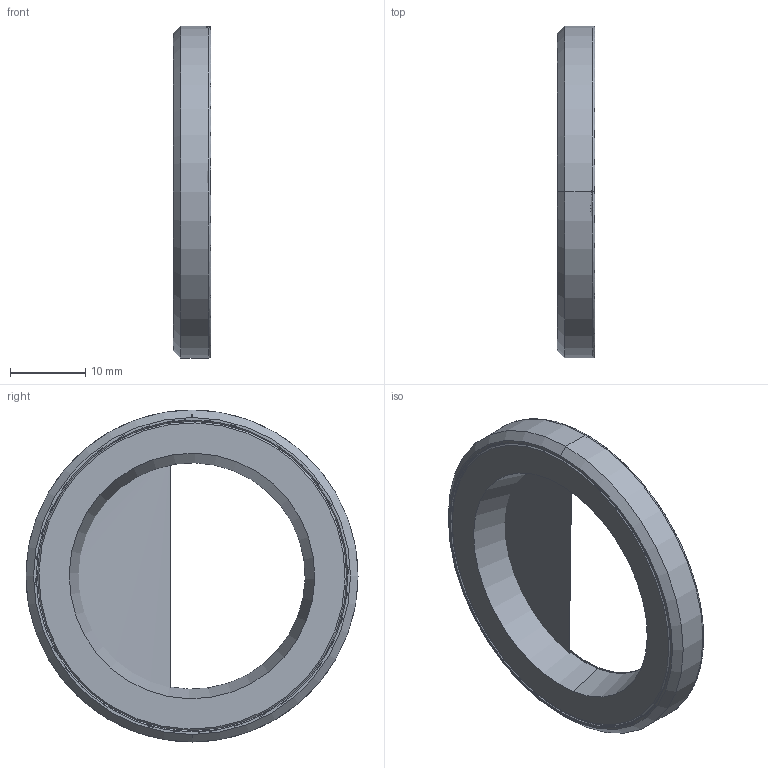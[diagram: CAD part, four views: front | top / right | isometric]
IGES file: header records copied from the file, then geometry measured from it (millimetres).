
Start section: 3D InterOp IGES (Version 21 0 1), Spatial Corp. Copyright (c) 1999-2007.
Global section: file name: DBX-30.igs; native system: Spatial Corp.; preprocessor: 3D InterOp GENERIC/IGES 3.0; author: Noname; organization: Noname; date: 20220216.143351; units: millimetre
Bounding box: 5 x 44 x 44 mm (x, y, z)
Surface area: 6546 mm2 (no closed solid volume)
Topology: 0 solids, 0 shells, 43 faces, 188 edges, 180 vertices
Faces by surface type: revolution 36, extrusion 7
